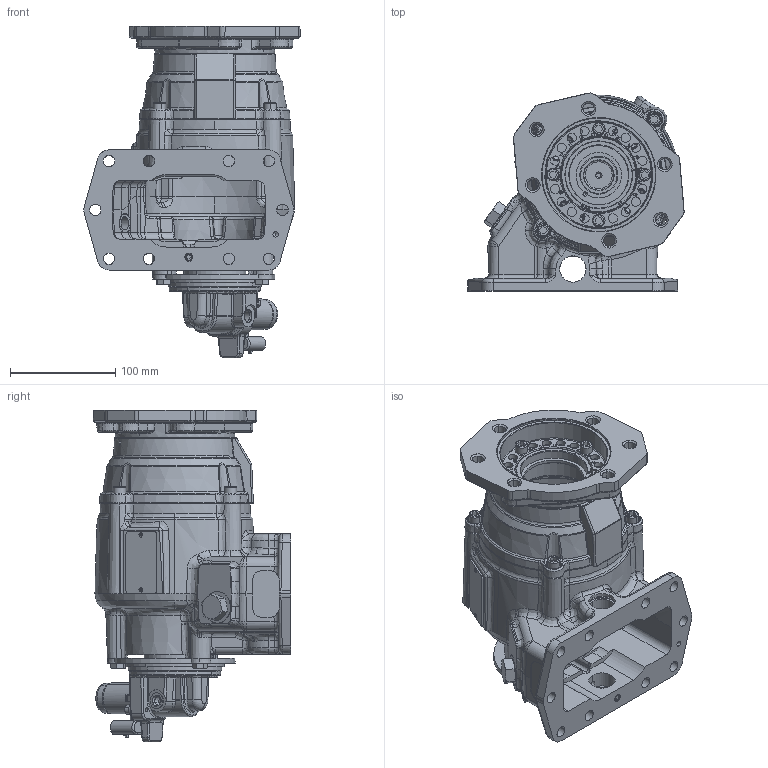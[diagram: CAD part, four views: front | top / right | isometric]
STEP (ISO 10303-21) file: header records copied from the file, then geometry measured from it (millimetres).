
FILE_DESCRIPTION (( 'STEP AP203' ), '1' );
FILE_NAME ('A20-A10XX-HX1PBPX.STEP', '2023-03-23T13:12:26', ( '' ), ( '' ), 'SwSTEP 2.0', 'SolidWorks 2021', '' );
FILE_SCHEMA (( 'CONFIG_CONTROL_DESIGN' ));
Products named in the file (13): SC-301_25T37702; 19T36588_19T36588; 47T6123TMP_Solenoid; 01T43462_1Arrangement; DropInSolenoidRearCoverAssembly; 14T65388DB2; 47T6123_15T43431_DUST CAP INSTALLED; 12T36701; 15T65391DB3; 19T62950; 35T40860; 15T43431_FOR CLAMPS; A20-A10XX-HX1PBPX
Assembly tree (20 placements, depth 4):
  A20-A10XX-HX1PBPX
    01T43462_1Arrangement
    14T65388DB2
    15T65391DB3
    19T36588_19T36588  x8
    DropInSolenoidRearCoverAssembly
      47T6123TMP_Solenoid
      47T6123_15T43431_DUST CAP INSTALLED
        15T43431_FOR CLAMPS
        19T62950  x2
        12T36701
        SC-301_25T37702
    35T40860
Bounding box: 205.69 x 188.15 x 315.55 mm (x, y, z)
Volume: 778483.4 mm3; surface area: 464064.5 mm2
Topology: 24 solids, 37 shells, 3625 faces, 8988 edges, 5503 vertices
Faces by surface type: plane 1157, bspline 964, cylinder 788, cone 410, torus 270, sphere 36
Entity records: 168799 total; most frequent: CARTESIAN_POINT 91494, ORIENTED_EDGE 16978, DIRECTION 14090, EDGE_CURVE 8498, AXIS2_PLACEMENT_3D 5423, VERTEX_POINT 5271, EDGE_LOOP 3786, FACE_OUTER_BOUND 3457
